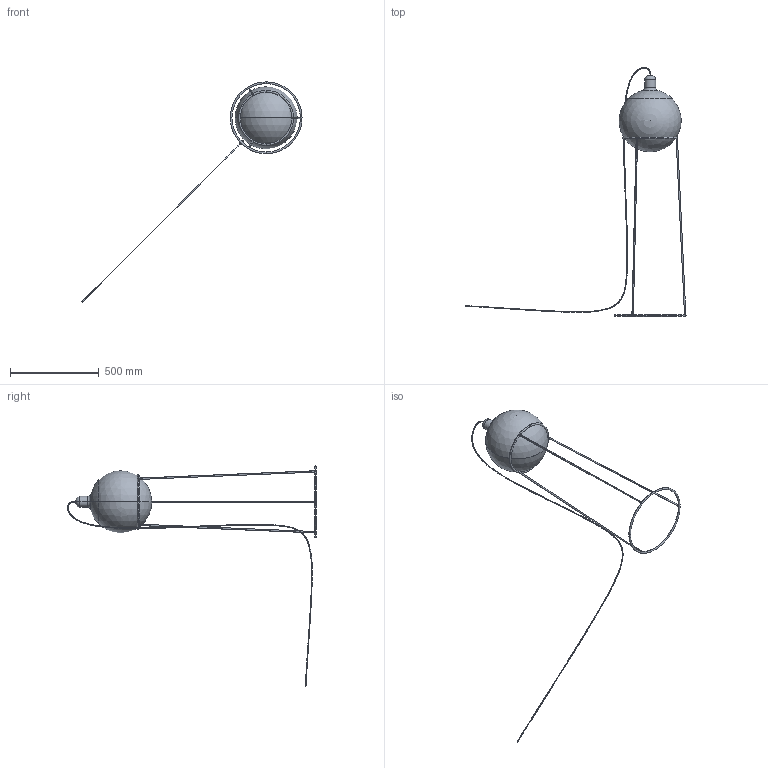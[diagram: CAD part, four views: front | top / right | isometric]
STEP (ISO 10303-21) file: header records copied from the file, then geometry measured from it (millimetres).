
FILE_DESCRIPTION (( 'STEP AP214' ), '1' );
FILE_NAME ('Dolly_golv_gul_BS.STEP', '2019-11-18T09:57:18', ( '' ), ( '' ), 'SwSTEP 2.0', 'SolidWorks 2018', '' );
FILE_SCHEMA (( 'AUTOMOTIVE_DESIGN' ));
Length unit declared in the file: millimetre
Products named in the file (4): Dolly_Gul_BS; Dolly_golv_BS_Sladd; dolly_golvställning_gul_BS; Dolly_golv_gul_BS
Assembly tree (3 placements, depth 2):
  Dolly_golv_gul_BS
    Dolly_golv_BS_Sladd
    dolly_golvställning_gul_BS
    Dolly_Gul_BS
Bounding box: 1240.54 x 1402.88 x 1240.84 mm (x, y, z)
Volume: 25563319.8 mm3; surface area: 1438493.6 mm2
Topology: 5 solids, 6 shells, 39 faces, 92 edges, 57 vertices
Faces by surface type: torus 14, cylinder 8, sphere 8, plane 4, cone 3, bspline 2
Entity records: 2263 total; most frequent: CARTESIAN_POINT 1266, DIRECTION 198, ORIENTED_EDGE 154, AXIS2_PLACEMENT_3D 95, EDGE_CURVE 77, CIRCLE 52, VERTEX_POINT 48, EDGE_LOOP 45
